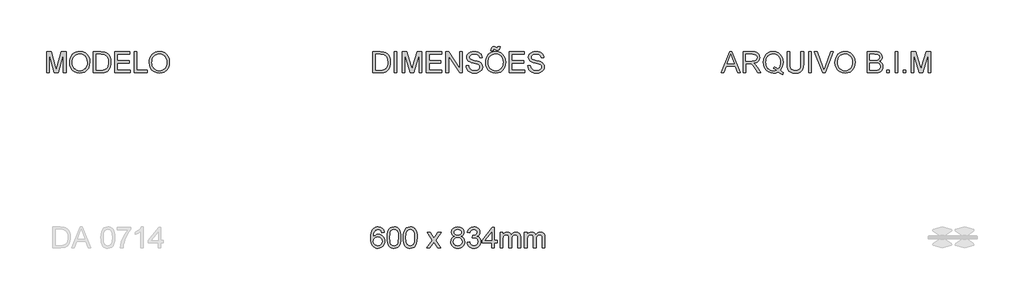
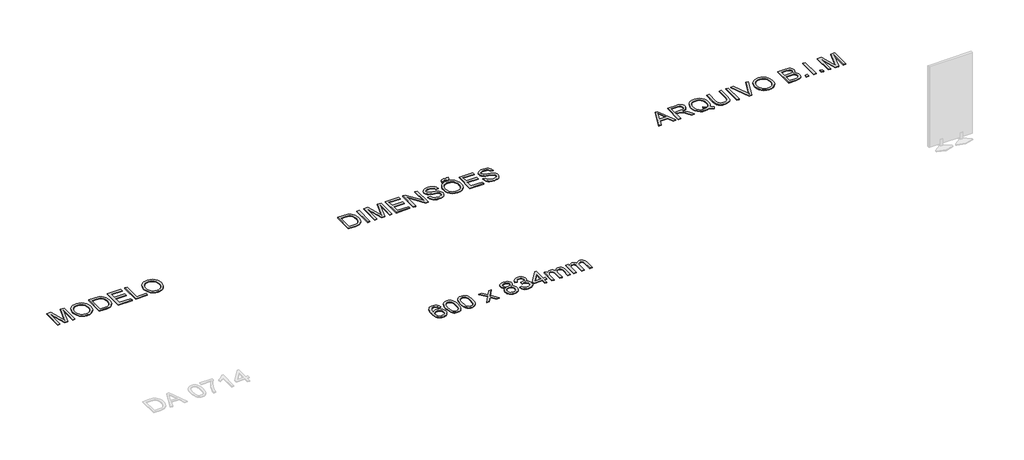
# One storey, part 66 of 67: 4 proxies.
"""IFC4 building model written with IfcOpenShell, lengths in millimetres."""

from ifc_helpers import new_model, si_unit, origin, origin_with_axes, place, context, project, spatial, polyline, outline, extrude, element, save

model = new_model("IFC4")

# Units and contexts
model_context = context("Model", 3, world=origin())
ifc_project = project(units=[si_unit("LENGTHUNIT", "METRE", prefix="MILLI")], contexts=[model_context])

# Site, building, storey
site = spatial("IfcSite", under=ifc_project)
building = spatial("IfcBuilding", under=site)
storey = spatial("IfcBuildingStorey", under=building, Name="Marelli - Linha COLAB - Planta Baixa", Elevation=0.0)

# Proxies
placement = place(None, origin())
element("IfcBuildingElementProxy", 1, Name="300mm Arial", ObjectType="300mm Arial", at=placement, inside=storey, context=model_context, shape_type="SweptSolid", body=[
    extrude(outline(polyline([(24684.665269, 8719.4336799), (24684.665269, 9020.8026104), (24788.6287208, 9020.8026104), (24842.4130685, 9016.4616028), (24866.4357628, 9008.0922874), (24886.7060607, 8994.9037179), (24907.5465757, 8971.9478814), (24922.3906142, 8943.4002386), (24931.2749644, 8909.8126124), (24934.2364145, 8871.7368259), (24932.2314576, 8839.3908015), (24926.216587, 8810.9259321), (24917.0563253, 8786.6917057), (24905.6151953, 8767.0376101), (24892.4450198, 8751.522187), (24878.097622, 8739.7039779), (24861.6257057, 8730.9391893), (24842.0819747, 8724.5840279), (24793.6319159, 8719.4336799), (24684.665269, 8719.4336799)]), holes=[polyline([(24722.3363853, 8757.1047962), (24788.9966028, 8757.1047962), (24816.5693583, 8758.4659596), (24837.4834498, 8762.5494498), (24853.2655873, 8769.1161434), (24865.4424814, 8777.9269172), (24878.5298834, 8794.2332866), (24888.3615297, 8815.3405161), (24894.5143561, 8841.3405761), (24896.5652982, 8872.3254371), (24892.5461874, 8913.3810678), (24880.488855, 8943.6945442), (24862.6741694, 8964.5166651), (24841.3829989, 8977.0982294), (24819.7147494, 8981.6231779), (24787.9665332, 8983.1314941), (24722.3363853, 8983.1314941), (24722.3363853, 8757.1047962)])]), origin_with_axes(), (0.0, 0.0, 1.0), 10.0),
    extrude(outline(polyline([(24990.7430889, 8719.4336799), (24990.7430889, 9020.8026104), (25028.4142052, 9020.8026104), (25028.4142052, 8719.4336799), (24990.7430889, 8719.4336799)])), origin_with_axes(), (0.0, 0.0, 1.0), 10.0),
    extrude(outline(polyline([(25103.7564379, 8719.4336799), (25103.7564379, 9020.8026104), (25168.5772454, 9020.8026104), (25230.2342678, 8808.3875464), (25242.6686792, 8764.0209777), (25256.1331603, 8812.0663663), (25316.7601131, 9020.8026104), (25381.5809206, 9020.8026104), (25381.5809206, 8719.4336799), (25343.9098043, 8719.4336799), (25343.9098043, 8983.1314941), (25268.1996897, 8719.4336799), (25217.1376688, 8719.4336799), (25141.4275542, 8983.1314941), (25141.4275542, 8719.4336799), (25103.7564379, 8719.4336799)])), origin_with_axes(), (0.0, 0.0, 1.0), 10.0),
    extrude(outline(polyline([(25447.5053742, 8719.4336799), (25447.5053742, 9020.8026104), (25664.1142929, 9020.8026104), (25664.1142929, 8983.1314941), (25485.1764905, 8983.1314941), (25485.1764905, 8893.6625928), (25654.6965138, 8893.6625928), (25654.6965138, 8855.9914765), (25485.1764905, 8855.9914765), (25485.1764905, 8757.1047962), (25668.8231825, 8757.1047962), (25668.8231825, 8719.4336799), (25447.5053742, 8719.4336799)])), origin_with_axes(), (0.0, 0.0, 1.0), 10.0),
    extrude(outline(polyline([(25725.3298569, 8719.4336799), (25725.3298569, 9020.8026104), (25765.6497236, 9020.8026104), (25923.1032175, 8782.0471955), (25923.1032175, 9020.8026104), (25960.7743338, 9020.8026104), (25960.7743338, 8719.4336799), (25920.4544672, 8719.4336799), (25763.0009732, 8958.2626712), (25763.0009732, 8719.4336799), (25725.3298569, 8719.4336799)])), origin_with_axes(), (0.0, 0.0, 1.0), 10.0),
    extrude(outline(polyline([(26012.5721187, 8823.0292498), (26050.2432351, 8823.0292498), (26054.5658485, 8802.1243554), (26062.3833409, 8785.3213453), (26074.578629, 8771.9856229), (26092.0346297, 8761.482592), (26113.3717854, 8754.667578), (26137.2105387, 8752.3959067), (26158.1982065, 8754.115755), (26176.5739122, 8759.2753), (26191.463936, 8767.4422803), (26201.9945581, 8778.1844346), (26208.257749, 8790.5176784), (26210.3454794, 8803.4579276), (26208.7819809, 8816.067083), (26204.0914854, 8826.9655871), (26194.5633418, 8836.2638046), (26178.4868986, 8844.0720999), (26123.6356931, 8858.4562859), (26087.6292428, 8867.9752325), (26064.5906329, 8877.0343267), (26045.8378482, 8889.7078614), (26032.5481111, 8905.0669347), (26024.6294511, 8922.7804528), (26021.9898978, 8942.5173218), (26025.2548505, 8964.5810445), (26035.0497087, 8985.154845), (26051.1169548, 9002.5924516), (26073.1990716, 9015.2475923), (26099.7049693, 9022.945523), (26129.0435584, 9025.5114999), (26160.8285628, 9022.8259614), (26188.6404416, 9014.7693457), (26211.4859135, 9001.5071997), (26228.3716971, 8983.2050705), (26239.0586691, 8961.0033921), (26243.3077061, 8936.0425987), (26205.6365898, 8936.0425987), (26198.7204083, 8958.5201886), (26184.2994341, 8974.7437846), (26161.7666619, 8984.5662339), (26130.5150864, 8987.8403836), (26098.5277469, 8984.6030221), (26076.5835859, 8974.8909374), (26063.8916571, 8960.5987219), (26059.6610141, 8943.6209678), (26062.6592524, 8929.1448113), (26071.6539672, 8917.5013461), (26092.9175465, 8907.0902857), (26133.1638368, 8896.458496), (26174.697714, 8886.3601352), (26199.8240543, 8877.5493615), (26221.2991658, 8863.8825453), (26236.28116, 8847.0151559), (26245.0827367, 8827.131134), (26248.0165957, 8804.4144208), (26244.6412784, 8781.1918699), (26234.5153264, 8759.3488764), (26218.0526072, 8740.5501065), (26195.6669877, 8726.460226), (26168.7472227, 8717.6586493), (26138.6820667, 8714.7247904), (26101.7743055, 8717.8885756), (26071.3964498, 8727.379931), (26047.1990115, 8743.235645), (26028.8325029, 8765.4925057), (26017.041885, 8792.6054088), (26012.5721187, 8823.0292498)])), origin_with_axes(), (0.0, 0.0, 1.0), 10.0),
    extrude(outline(polyline([(26290.3966015, 8866.1450196), (26292.9073961, 8901.4938808), (26300.43978, 8932.786843), (26312.9937531, 8960.0239063), (26330.5693154, 8983.2050705), (26352.1134047, 9001.7141334), (26376.5729589, 9014.9348926), (26403.9479778, 9022.8673481), (26434.2384616, 9025.5114999), (26473.767382, 9020.545093), (26509.2128122, 9005.6458722), (26538.6433718, 8981.8623012), (26560.1276804, 8950.2428437), (26573.2610676, 8912.31421), (26577.6388633, 8869.6031104), (26573.0311413, 8826.3217936), (26559.2079754, 8787.859731), (26536.9327206, 8756.1850912), (26506.9687321, 8733.266043), (26471.8268045, 8719.3601035), (26434.0177324, 8714.7247904), (26393.8818067, 8719.8475472), (26358.2340414, 8735.2158175), (26328.8770582, 8759.4408469), (26307.6134789, 8791.1338808), (26294.7008208, 8827.6001836), (26290.3966015, 8866.1450196)]), holes=[polyline([(26328.0677178, 8865.7771376), (26329.9508138, 8840.8025487), (26335.6001017, 8818.6330599), (26345.0155815, 8799.2686714), (26358.1972532, 8782.7093831), (26374.2208134, 8769.4472372), (26392.1619584, 8759.9742758), (26412.0206884, 8754.290499), (26433.7970032, 8752.3959067), (26455.9457986, 8754.3088931), (26476.0390533, 8760.0478522), (26494.0767674, 8769.6127841), (26510.0589408, 8783.0036887), (26523.1440435, 8799.9124649), (26532.4905455, 8820.0310115), (26538.0984466, 8843.3593285), (26539.967747, 8869.897416), (26536.7671737, 8903.2459188), (26527.1654536, 8932.0694731), (26511.4109072, 8955.641512), (26489.7518547, 8973.2354684), (26463.623036, 8984.1891548), (26434.4591908, 8987.8403836), (26413.4393333, 8986.0814478), (26393.936989, 8980.8046405), (26375.952158, 8972.0099615), (26359.4848402, 8959.697411), (26345.7398492, 8943.2737792), (26335.9219984, 8922.1458563), (26330.031288, 8896.3136425), (26328.0677178, 8865.7771376)])]), origin_with_axes(), (0.0, 0.0, 1.0), 10.0),
    extrude(outline(polyline([(26365.7388341, 9039.6381685), (26368.5899196, 9062.7963401), (26377.4374816, 9080.7673756), (26390.7732039, 9092.3004761), (26407.383076, 9096.144843), (26421.2890154, 9093.1098165), (26437.5493996, 9084.0047372), (26452.7797142, 9077.3092848), (26460.7627535, 9081.0984694), (26464.6255144, 9096.144843), (26497.5877412, 9096.144843), (26494.3043944, 9071.4231729), (26485.6315763, 9053.7648371), (26472.7281154, 9043.1698357), (26456.7528397, 9039.6381685), (26442.7549298, 9042.5076481), (26426.9543981, 9051.1160868), (26411.0618959, 9058.4737267), (26402.0855752, 9053.6912607), (26398.7010609, 9039.6381685), (26365.7388341, 9039.6381685)])), origin_with_axes(), (0.0, 0.0, 1.0), 10.0),
    extrude(outline(polyline([(26629.4366483, 8719.4336799), (26629.4366483, 9020.8026104), (26846.045567, 9020.8026104), (26846.045567, 8983.1314941), (26667.1077646, 8983.1314941), (26667.1077646, 8893.6625928), (26836.6277879, 8893.6625928), (26836.6277879, 8855.9914765), (26667.1077646, 8855.9914765), (26667.1077646, 8757.1047962), (26850.7544566, 8757.1047962), (26850.7544566, 8719.4336799), (26629.4366483, 8719.4336799)])), origin_with_axes(), (0.0, 0.0, 1.0), 10.0),
    extrude(outline(polyline([(26893.1344624, 8823.0292498), (26930.8055787, 8823.0292498), (26935.1281922, 8802.1243554), (26942.9456845, 8785.3213453), (26955.1409727, 8771.9856229), (26972.5969734, 8761.482592), (26993.9341291, 8754.667578), (27017.7728824, 8752.3959067), (27038.7605502, 8754.115755), (27057.1362559, 8759.2753), (27072.0262796, 8767.4422803), (27082.5569017, 8778.1844346), (27088.8200927, 8790.5176784), (27090.907823, 8803.4579276), (27089.3443245, 8816.067083), (27084.6538291, 8826.9655871), (27075.1256854, 8836.2638046), (27059.0492422, 8844.0720999), (27004.1980367, 8858.4562859), (26968.1915865, 8867.9752325), (26945.1529765, 8877.0343267), (26926.4001918, 8889.7078614), (26913.1104547, 8905.0669347), (26905.1917948, 8922.7804528), (26902.5522415, 8942.5173218), (26905.8171942, 8964.5810445), (26915.6120523, 8985.154845), (26931.6792984, 9002.5924516), (26953.7614152, 9015.2475923), (26980.267313, 9022.945523), (27009.6059021, 9025.5114999), (27041.3909065, 9022.8259614), (27069.2027853, 9014.7693457), (27092.0482572, 9001.5071997), (27108.9340408, 8983.2050705), (27119.6210127, 8961.0033921), (27123.8700498, 8936.0425987), (27086.1989335, 8936.0425987), (27079.282752, 8958.5201886), (27064.8617777, 8974.7437846), (27042.3290055, 8984.5662339), (27011.0774301, 8987.8403836), (26979.0900906, 8984.6030221), (26957.1459296, 8974.8909374), (26944.4540007, 8960.5987219), (26940.2233578, 8943.6209678), (26943.221596, 8929.1448113), (26952.2163108, 8917.5013461), (26973.4798901, 8907.0902857), (27013.7261804, 8896.458496), (27055.2600577, 8886.3601352), (27080.3863979, 8877.5493615), (27101.8615094, 8863.8825453), (27116.8435037, 8847.0151559), (27125.6450804, 8827.131134), (27128.5789393, 8804.4144208), (27125.203622, 8781.1918699), (27115.0776701, 8759.3488764), (27098.6149508, 8740.5501065), (27076.2293314, 8726.460226), (27049.3095664, 8717.6586493), (27019.2444103, 8714.7247904), (26982.3366492, 8717.8885756), (26951.9587934, 8727.379931), (26927.7613552, 8743.235645), (26909.3948466, 8765.4925057), (26897.6042286, 8792.6054088), (26893.1344624, 8823.0292498)])), origin_with_axes(), (0.0, 0.0, 1.0), 10.0),
])
element("IfcBuildingElementProxy", 2, Name="300mm Arial", ObjectType="300mm Arial", at=placement, inside=storey, context=model_context, shape_type="SweptSolid", body=[
    extrude(outline(polyline([(29649.579499, 8719.4336799), (29769.8769114, 9020.8026104), (29801.9562214, 9020.8026104), (29922.2536338, 8719.4336799), (29882.448802, 8719.4336799), (29847.9414708, 8813.6114707), (29723.8180857, 8813.6114707), (29689.3843309, 8719.4336799), (29649.579499, 8719.4336799)]), holes=[polyline([(29737.6504487, 8851.282587), (29834.1826842, 8851.282587), (29807.032993, 8925.3740208), (29785.9165664, 8983.1314941), (29767.1545847, 8931.8487439), (29737.6504487, 8851.282587)])]), origin_with_axes(), (0.0, 0.0, 1.0), 10.0),
    extrude(outline(polyline([(29962.4999241, 8719.4336799), (29962.4999241, 9020.8026104), (30092.3622684, 9020.8026104), (30127.2650727, 9018.7700624), (30152.6581274, 9012.6724183), (30171.2177741, 9001.4152292), (30185.6203542, 8983.9040463), (30194.8633893, 8962.1898115), (30197.944401, 8938.3234671), (30192.8400384, 8908.6353901), (30177.5269503, 8884.0240846), (30165.9271711, 8873.9947017), (30151.5452844, 8865.9794727), (30114.4351881, 8855.9914765), (30135.8459202, 8839.8782452), (30166.3801258, 8801.1034829), (30216.6328064, 8719.4336799), (30172.854849, 8719.4336799), (30133.6386283, 8781.9000427), (30105.3117146, 8823.249979), (30085.4092987, 8842.7845129), (30067.4934455, 8849.9582118), (30045.641255, 8851.282587), (30000.1710404, 8851.282587), (30000.1710404, 8719.4336799), (29962.4999241, 8719.4336799)]), holes=[polyline([(30000.1710404, 8888.9537033), (30084.4895937, 8888.9537033), (30108.7054261, 8890.2872755), (30127.494999, 8894.2879922), (30141.6400617, 8901.2225678), (30151.9223634, 8911.3577168), (30158.1855544, 8923.6173843), (30160.2732847, 8936.9255155), (30156.2909621, 8955.3012211), (30144.3439943, 8970.1084714), (30123.7885879, 8979.8757384), (30093.9809492, 8983.1314941), (30000.1710404, 8983.1314941), (30000.1710404, 8888.9537033)])]), origin_with_axes(), (0.0, 0.0, 1.0), 10.0),
    extrude(outline(polyline([(30490.2634344, 8755.5596919), (30514.5988284, 8736.963257), (30536.9844478, 8724.1425695), (30526.8309047, 8696.5514198), (30495.7632702, 8710.9539999), (30464.8060003, 8731.794515), (30429.9491813, 8718.9922215), (30391.5974833, 8714.7247904), (30353.0618443, 8719.6452121), (30318.2418135, 8734.4064771), (30289.0779683, 8758.0796835), (30267.5108863, 8789.7359292), (30254.184361, 8827.6369718), (30249.742186, 8870.0445688), (30254.175164, 8912.488954), (30267.4740981, 8950.9418195), (30288.9584066, 8983.0487206), (30317.9475079, 9006.4552126), (30352.63878, 9020.7474281), (30391.2296013, 9025.5114999), (30430.1239252, 9020.6370635), (30464.9899413, 9006.0137542), (30493.9330573, 8982.6164593), (30515.0586809, 8951.4200661), (30527.9713389, 8914.0800436), (30532.2755583, 8872.2518607), (30529.6635961, 8837.4686181), (30521.8277096, 8806.4009836), (30508.7127165, 8779.0857454), (30490.2634344, 8755.5596919)]), holes=[polyline([(30401.9717556, 8805.6652196), (30433.6463953, 8793.6906607), (30459.214194, 8777.0440004), (30474.6974275, 8794.5183951), (30485.75688, 8815.8923391), (30492.3925514, 8841.1658321), (30494.6044419, 8870.3388744), (30491.477445, 8903.4942392), (30482.0964541, 8932.1798377), (30466.6913956, 8955.6691031), (30445.4921956, 8973.2354684), (30419.933594, 8984.1891548), (30391.4503305, 8987.8403836), (30369.966022, 8985.9940758), (30350.3946998, 8980.4551526), (30332.7363641, 8971.2236137), (30316.9910147, 8958.2994594), (30304.0507655, 8941.7102807), (30294.8077304, 8921.4836687), (30289.2619093, 8897.6196236), (30287.4133023, 8870.1181452), (30289.2412159, 8843.3340366), (30294.7249569, 8819.8562676), (30303.8645252, 8799.6848379), (30316.6599209, 8782.8197477), (30332.2972049, 8769.5093173), (30349.9624385, 8760.0018669), (30369.6556215, 8754.2973968), (30391.3767541, 8752.3959067), (30412.2908455, 8754.3272872), (30431.91735, 8760.1214286), (30412.6219393, 8770.146213), (30392.2596709, 8776.8232712), (30401.9717556, 8805.6652196)])]), origin_with_axes(), (0.0, 0.0, 1.0), 10.0),
    extrude(outline(polyline([(30786.5555933, 9020.8026104), (30824.2267096, 9020.8026104), (30824.2267096, 8846.9415795), (30821.6699298, 8806.2262396), (30813.9995902, 8774.8734966), (30799.6705864, 8750.6852554), (30777.1378142, 8731.4634212), (30746.3460912, 8718.9094481), (30707.2402352, 8714.7247904), (30668.9897047, 8718.3668221), (30638.4095139, 8729.2929174), (30615.4904656, 8747.1259971), (30600.2233628, 8771.4889822), (30591.6425152, 8804.1661005), (30588.7822327, 8846.9415795), (30588.7822327, 9020.8026104), (30626.453349, 9020.8026104), (30626.453349, 8848.2659546), (30628.3111531, 8814.411614), (30633.8845653, 8790.8395752), (30643.9829261, 8774.5148117), (30659.4155758, 8762.402297), (30679.5387209, 8754.8975043), (30703.708568, 8752.3959067), (30742.0234778, 8757.3439195), (30756.3662771, 8763.5289356), (30767.499306, 8772.187958), (30775.8364317, 8784.3648521), (30781.7915215, 8801.1034829), (30786.5555933, 8848.2659546), (30786.5555933, 9020.8026104)])), origin_with_axes(), (0.0, 0.0, 1.0), 10.0),
    extrude(outline(polyline([(30894.8600527, 8719.4336799), (30894.8600527, 9020.8026104), (30932.531169, 9020.8026104), (30932.531169, 8719.4336799), (30894.8600527, 8719.4336799)])), origin_with_axes(), (0.0, 0.0, 1.0), 10.0),
    extrude(outline(polyline([(31096.9008444, 8719.4336799), (30976.971314, 9020.8026104), (31017.2911807, 9020.8026104), (31097.563032, 8803.6786568), (31113.8234162, 8754.7503515), (31129.8630712, 8803.6786568), (31210.3556518, 9020.8026104), (31250.6755184, 9020.8026104), (31135.8227595, 8719.4336799), (31096.9008444, 8719.4336799)])), origin_with_axes(), (0.0, 0.0, 1.0), 10.0),
    extrude(outline(polyline([(31271.5712158, 8866.1450196), (31274.0820104, 8901.4938808), (31281.6143942, 8932.786843), (31294.1683673, 8960.0239063), (31311.7439296, 8983.2050705), (31333.288019, 9001.7141334), (31357.7475731, 9014.9348926), (31385.1225921, 9022.8673481), (31415.4130759, 9025.5114999), (31454.9419963, 9020.545093), (31490.3874265, 9005.6458722), (31519.8179861, 8981.8623012), (31541.3022946, 8950.2428437), (31554.4356819, 8912.31421), (31558.8134776, 8869.6031104), (31554.2057556, 8826.3217936), (31540.3825896, 8787.859731), (31518.1073348, 8756.1850912), (31488.1433463, 8733.266043), (31453.0014187, 8719.3601035), (31415.1923467, 8714.7247904), (31375.056421, 8719.8475472), (31339.4086557, 8735.2158175), (31310.0516725, 8759.4408469), (31288.7880931, 8791.1338808), (31275.8754351, 8827.6001836), (31271.5712158, 8866.1450196)]), holes=[polyline([(31309.2423321, 8865.7771376), (31311.125428, 8840.8025487), (31316.7747159, 8818.6330599), (31326.1901957, 8799.2686714), (31339.3718675, 8782.7093831), (31355.3954276, 8769.4472372), (31373.3365727, 8759.9742758), (31393.1953026, 8754.290499), (31414.9716175, 8752.3959067), (31437.1204129, 8754.3088931), (31457.2136676, 8760.0478522), (31475.2513817, 8769.6127841), (31491.2335551, 8783.0036887), (31504.3186578, 8799.9124649), (31513.6651597, 8820.0310115), (31519.2730609, 8843.3593285), (31521.1423613, 8869.897416), (31517.9417879, 8903.2459188), (31508.3400679, 8932.0694731), (31492.5855214, 8955.641512), (31470.9264689, 8973.2354684), (31444.7976502, 8984.1891548), (31415.6338051, 8987.8403836), (31394.6139476, 8986.0814478), (31375.1116033, 8980.8046405), (31357.1267723, 8972.0099615), (31340.6594545, 8959.697411), (31326.9144634, 8943.2737792), (31317.0966127, 8922.1458563), (31311.2059022, 8896.3136425), (31309.2423321, 8865.7771376)])]), origin_with_axes(), (0.0, 0.0, 1.0), 10.0),
    extrude(outline(polyline([(31728.333501, 8719.4336799), (31728.333501, 9020.8026104), (31843.3334127, 9020.8026104), (31874.9620672, 9018.5861214), (31899.6561461, 9011.9366543), (31918.5836748, 9000.6886623), (31932.9126785, 8984.6765985), (31941.9349844, 8965.8410403), (31944.9424197, 8946.1225654), (31942.413231, 8927.9767859), (31934.8256649, 8910.9162584), (31922.124539, 8895.9894465), (31904.2546711, 8884.2448138), (31925.6010238, 8873.0979893), (31941.3739644, 8856.1386293), (31951.1136402, 8834.4887739), (31954.3601988, 8809.2704632), (31952.1437098, 8788.2552042), (31945.4942427, 8768.7666555), (31935.5706259, 8752.1935716), (31923.5316876, 8739.9247071), (31908.7888167, 8731.0403569), (31890.7534018, 8724.6208161), (31842.4504959, 8719.4336799), (31728.333501, 8719.4336799)]), holes=[polyline([(31766.0046173, 8898.3714824), (31834.7985504, 8898.3714824), (31874.9712642, 8901.6088439), (31889.0335535, 8907.1914532), (31899.1411113, 8915.5515716), (31905.2387554, 8926.5604403), (31907.2713034, 8940.0893006), (31905.3767111, 8953.2226879), (31899.6929343, 8964.6638179), (31890.4774903, 8973.5941533), (31877.9878966, 8979.1951567), (31829.574626, 8983.1314941), (31766.0046173, 8983.1314941), (31766.0046173, 8898.3714824)]), polyline([(31766.0046173, 8757.1047962), (31843.2598363, 8757.1047962), (31871.2188679, 8758.5763242), (31894.8736802, 8766.7800927), (31910.5454532, 8783.5187235), (31915.1531752, 8795.3461296), (31916.6890825, 8808.9025812), (31914.8864607, 8824.6479306), (31909.4785954, 8838.185988), (31900.0332252, 8848.7717924), (31886.1180887, 8855.6603827), (31866.4088108, 8859.4403702), (31839.5810163, 8860.7003661), (31766.0046173, 8860.7003661), (31766.0046173, 8757.1047962)])]), origin_with_axes(), (0.0, 0.0, 1.0), 10.0),
    extrude(outline(polyline([(32010.8668733, 8719.4336799), (32010.8668733, 8757.1047962), (32048.5379896, 8757.1047962), (32048.5379896, 8719.4336799), (32010.8668733, 8719.4336799)])), origin_with_axes(), (0.0, 0.0, 1.0), 10.0),
    extrude(outline(polyline([(32128.5891117, 8719.4336799), (32128.5891117, 9020.8026104), (32166.260228, 9020.8026104), (32166.260228, 8719.4336799), (32128.5891117, 8719.4336799)])), origin_with_axes(), (0.0, 0.0, 1.0), 10.0),
    extrude(outline(polyline([(32246.3113502, 8719.4336799), (32246.3113502, 8757.1047962), (32283.9824665, 8757.1047962), (32283.9824665, 8719.4336799), (32246.3113502, 8719.4336799)])), origin_with_axes(), (0.0, 0.0, 1.0), 10.0),
    extrude(outline(polyline([(32359.3246991, 8719.4336799), (32359.3246991, 9020.8026104), (32424.1455066, 9020.8026104), (32485.802529, 8808.3875464), (32498.2369405, 8764.0209777), (32511.7014215, 8812.0663663), (32572.3283743, 9020.8026104), (32637.1491819, 9020.8026104), (32637.1491819, 8719.4336799), (32599.4780655, 8719.4336799), (32599.4780655, 8983.1314941), (32523.7679509, 8719.4336799), (32472.70593, 8719.4336799), (32396.9958154, 8983.1314941), (32396.9958154, 8719.4336799), (32359.3246991, 8719.4336799)])), origin_with_axes(), (0.0, 0.0, 1.0), 10.0),
])
element("IfcBuildingElementProxy", 3, Name="300mm Arial", ObjectType="300mm Arial", at=placement, inside=storey, context=model_context, shape_type="SweptSolid", body=[
    extrude(outline(polyline([(24849.4764028, 6440.7514882), (24811.8052865, 6436.0425987), (24805.7352336, 6454.7126099), (24797.5314651, 6467.4597211), (24780.4433464, 6479.2135508), (24759.7867724, 6483.1314941), (24742.2755894, 6480.8506257), (24725.794476, 6474.0080206), (24711.6402163, 6459.5962434), (24700.0795246, 6439.7582068), (24692.2712292, 6411.6980077), (24689.3741585, 6372.6197427), (24704.4849114, 6390.2504873), (24722.5939027, 6402.6757017), (24742.6894566, 6410.0425387), (24763.7598979, 6412.498151), (24781.8596921, 6410.8196894), (24798.5615347, 6405.7843046), (24813.8654257, 6397.3919966), (24827.7713651, 6385.6427654), (24839.3274583, 6371.2355867), (24847.5818105, 6354.8694365), (24852.5344219, 6336.5443146), (24854.1852923, 6316.2602211), (24851.0766895, 6289.2852738), (24841.7508809, 6264.2784951), (24826.9804188, 6243.0700981), (24807.5378553, 6227.4902956), (24784.3061073, 6217.9161667), (24758.1680916, 6214.7247904), (24735.711195, 6216.8401119), (24715.4294008, 6223.1860763), (24697.3227089, 6233.7626836), (24681.3911192, 6248.5699339), (24668.4025855, 6268.2332266), (24659.1250614, 6293.377961), (24653.558547, 6324.0041371), (24651.7030422, 6360.1117549), (24653.7631814, 6400.5925699), (24659.9435989, 6435.1412878), (24670.2442947, 6463.7579085), (24684.665269, 6486.442432), (24700.2956552, 6501.4750101), (24718.418442, 6512.2125658), (24739.0336293, 6518.6550992), (24762.1412171, 6520.8026104), (24795.1954144, 6515.4867156), (24821.664524, 6499.5390311), (24840.2057765, 6474.2103557), (24849.4764028, 6440.7514882)]), holes=[polyline([(24689.3741585, 6316.8488323), (24691.5538593, 6300.1561867), (24698.0929618, 6284.2176993), (24708.2465048, 6270.514095), (24721.2695275, 6260.5260988), (24736.9872857, 6254.4284547), (24755.2250356, 6252.3959067), (24780.0846615, 6256.6081555), (24799.6283924, 6269.2449021), (24812.2927301, 6289.1105298), (24816.514176, 6315.0094223), (24812.3479124, 6339.8690481), (24799.8491216, 6358.8241679), (24779.9742969, 6370.826318), (24753.6799313, 6374.8270347), (24728.8570936, 6370.826318), (24708.099352, 6358.8241679), (24694.0554569, 6340.3289006), (24689.3741585, 6316.8488323)])]), origin_with_axes(), (0.0, 0.0, 1.0), 10.0),
    extrude(outline(polyline([(24887.1475191, 6367.690124), (24889.9158311, 6415.9286506), (24898.2207672, 6454.3999103), (24911.9795538, 6483.6925141), (24931.1094175, 6504.3950734), (24955.7483142, 6516.7007261), (24986.0341994, 6520.8026104), (25009.2475533, 6518.3745892), (25030.032886, 6511.0905257), (25047.4153103, 6499.2355284), (25060.4199388, 6483.0947059), (25070.2423881, 6462.8060138), (25078.0782746, 6438.5074081), (25083.2102284, 6407.6513057), (25084.9208797, 6367.690124), (25082.1801588, 6319.7275089), (25073.9579963, 6281.3482197), (25060.2819831, 6252.0280247), (25041.1797105, 6231.242692), (25016.4856316, 6218.8542658), (24986.0341994, 6214.7247904), (24965.2856549, 6216.5182151), (24946.8915551, 6221.8984893), (24930.8519001, 6230.8656129), (24917.1666899, 6243.419586), (24904.0333027, 6266.1133066), (24894.6523118, 6294.3896364), (24889.0237173, 6328.2485756), (24887.1475191, 6367.690124)]), holes=[polyline([(24924.8186354, 6367.7637004), (24929.2332193, 6308.507108), (24934.7514493, 6288.2391093), (24942.4769712, 6274.211309), (24962.1954461, 6257.8497573), (24986.0341994, 6252.3959067), (25009.8729527, 6257.8681514), (25029.5914276, 6274.2848854), (25037.3169495, 6288.3356784), (25042.8351795, 6308.5990785), (25047.2497634, 6367.7637004), (25042.9823323, 6425.6867205), (25037.6480433, 6445.8880406), (25030.1800388, 6460.249234), (25010.4983521, 6477.410929), (24985.592741, 6483.1314941), (24962.0115051, 6478.0915107), (24943.0655824, 6462.9715607), (24935.0825431, 6447.3365759), (24929.3803721, 6426.2569376), (24924.8186354, 6367.7637004)])]), origin_with_axes(), (0.0, 0.0, 1.0), 10.0),
    extrude(outline(polyline([(25117.8831065, 6367.690124), (25120.6514185, 6415.9286506), (25128.9563545, 6454.3999103), (25142.7151412, 6483.6925141), (25161.8450049, 6504.3950734), (25186.4839015, 6516.7007261), (25216.7697868, 6520.8026104), (25239.9831407, 6518.3745892), (25260.7684734, 6511.0905257), (25278.1508977, 6499.2355284), (25291.1555262, 6483.0947059), (25300.9779755, 6462.8060138), (25308.813862, 6438.5074081), (25313.9458158, 6407.6513057), (25315.6564671, 6367.690124), (25312.9157462, 6319.7275089), (25304.6935836, 6281.3482197), (25291.0175705, 6252.0280247), (25271.9152979, 6231.242692), (25247.2212189, 6218.8542658), (25216.7697868, 6214.7247904), (25196.0212423, 6216.5182151), (25177.6271425, 6221.8984893), (25161.5874875, 6230.8656129), (25147.9022773, 6243.419586), (25134.7688901, 6266.1133066), (25125.3878992, 6294.3896364), (25119.7593047, 6328.2485756), (25117.8831065, 6367.690124)]), holes=[polyline([(25155.5542228, 6367.7637004), (25159.9688067, 6308.507108), (25165.4870367, 6288.2391093), (25173.2125586, 6274.211309), (25192.9310335, 6257.8497573), (25216.7697868, 6252.3959067), (25240.6085401, 6257.8681514), (25260.327015, 6274.2848854), (25268.0525369, 6288.3356784), (25273.5707668, 6308.5990785), (25277.9853508, 6367.7637004), (25273.7179196, 6425.6867205), (25268.3836307, 6445.8880406), (25260.9156262, 6460.249234), (25241.2339395, 6477.410929), (25216.3283284, 6483.1314941), (25192.7470925, 6478.0915107), (25173.8011697, 6462.9715607), (25165.8181304, 6447.3365759), (25160.1159595, 6426.2569376), (25155.5542228, 6367.7637004)])]), origin_with_axes(), (0.0, 0.0, 1.0), 10.0),
    extrude(outline(polyline([(25452.2142637, 6219.4336799), (25532.7068442, 6330.6811953), (25456.9231532, 6440.7514882), (25502.246215, 6440.7514882), (25538.8136854, 6387.7764809), (25555.8834099, 6362.7605053), (25570.6722661, 6383.2147442), (25612.316508, 6440.7514882), (25657.6395698, 6440.7514882), (25578.029906, 6330.6811953), (25654.6965138, 6219.4336799), (25609.373452, 6219.4336799), (25563.2410498, 6286.3146267), (25554.7797639, 6298.5283089), (25497.5373255, 6219.4336799), (25452.2142637, 6219.4336799)])), origin_with_axes(), (0.0, 0.0, 1.0), 10.0),
    extrude(outline(polyline([(25850.8511937, 6385.4220362), (25830.6820633, 6395.35485), (25816.5278035, 6408.819331), (25808.1676852, 6425.5395677), (25805.3809791, 6445.2396486), (25806.8984923, 6460.6033204), (25811.451032, 6474.6886023), (25819.0385981, 6487.4954942), (25829.6611907, 6499.0239963), (25842.8083735, 6508.5521399), (25857.9697103, 6515.3579569), (25894.3348455, 6520.8026104), (25930.9207099, 6515.2291982), (25946.2475935, 6508.2624329), (25959.5971114, 6498.5089615), (25970.4128421, 6486.7551317), (25978.138364, 6473.7872914), (25982.7736771, 6459.6054405), (25984.3187815, 6444.209579), (25981.5688636, 6425.1440946), (25973.3191099, 6408.7089665), (25959.4775498, 6395.3272589), (25939.9522129, 6385.4220362), (25963.1379756, 6373.4750684), (25980.0145622, 6355.8811119), (25990.306061, 6333.4862955), (25993.7365606, 6307.1367476), (25992.0351064, 6288.3471747), (25986.9307437, 6271.1211003), (25978.4234725, 6255.4585243), (25966.5132929, 6241.3594468), (25951.8256043, 6229.7067846), (25934.985806, 6221.3834545), (25915.993898, 6216.3894564), (25894.8498803, 6214.7247904), (25873.7058626, 6216.3963542), (25854.7139546, 6221.4110457), (25837.8741563, 6229.7688647), (25823.1864676, 6241.4698114), (25811.276288, 6255.6677572), (25802.7690169, 6271.5165734), (25797.6646542, 6289.0162601), (25795.9632, 6308.1668172), (25799.5316553, 6335.5372376), (25810.2370214, 6358.0516157), (25827.5274752, 6374.9373993), (25850.8511937, 6385.4220362)]), holes=[polyline([(25843.0520954, 6444.1360026), (25846.3906245, 6427.6916774), (25856.4062118, 6414.5582902), (25872.8045517, 6405.9498515), (25895.2913387, 6403.0803719), (25917.2538938, 6405.9314574), (25933.4039134, 6414.4847138), (25943.3367273, 6427.1766426), (25946.6476652, 6442.4437454), (25943.2263627, 6458.2902624), (25932.962455, 6471.3960584), (25916.5917062, 6480.1976352), (25894.8498803, 6483.1314941), (25872.9700986, 6480.2620145), (25856.626941, 6471.6535758), (25846.4458068, 6459.0352234), (25843.0520954, 6444.1360026)]), polyline([(25833.6343163, 6309.4911924), (25839.9250984, 6281.1274905), (25848.6347046, 6268.9597935), (25862.1819591, 6259.9006994), (25878.4055551, 6254.2721049), (25895.1441859, 6252.3959067), (25920.7855609, 6256.3414411), (25940.0257893, 6268.1780443), (25952.0555305, 6286.1030945), (25956.0654443, 6308.31397), (25951.9267718, 6330.9019245), (25939.5107545, 6349.2224478), (25919.8290678, 6361.3625537), (25893.8933871, 6365.4092556), (25868.610697, 6361.417736), (25849.5636067, 6349.443177), (25837.6166389, 6331.4721416), (25833.6343163, 6309.4911924)])]), origin_with_axes(), (0.0, 0.0, 1.0), 10.0),
    extrude(outline(polyline([(26026.6987874, 6299.4848021), (26064.3699037, 6304.1936916), (26072.8035984, 6280.5204852), (26085.1552364, 6264.5360125), (26102.0318229, 6255.4309332), (26124.0403633, 6252.3959067), (26149.8656793, 6256.5713673), (26169.8048835, 6269.0977493), (26182.5519946, 6287.7861546), (26186.8010317, 6310.4476855), (26182.5887828, 6331.9595852), (26169.9520363, 6349.4063888), (26150.8221725, 6360.9670805), (26127.130572, 6364.8206444), (26100.7166448, 6360.7003661), (26104.9104995, 6398.3714824), (26110.9437643, 6397.930024), (26133.5133247, 6400.6339567), (26153.6916521, 6408.7457546), (26167.9286853, 6422.4677531), (26172.674363, 6442.002287), (26169.2346664, 6458.2718683), (26158.9155764, 6471.4696348), (26143.170227, 6480.2160293), (26123.4517521, 6483.1314941), (26103.696489, 6480.1884381), (26087.5464694, 6471.3592702), (26075.7558514, 6456.6439904), (26069.0787932, 6436.0425987), (26031.4076769, 6440.7514882), (26042.4993191, 6474.5782377), (26062.2361881, 6499.8333367), (26089.2387265, 6515.5602919), (26122.1273769, 6520.8026104), (26145.8097803, 6518.2182394), (26167.5608033, 6510.4651263), (26185.8997208, 6498.23305), (26199.3458077, 6482.2117891), (26207.5955614, 6463.75331), (26210.3454794, 6444.209579), (26207.7335172, 6425.9994202), (26199.8976307, 6409.4815186), (26186.9481845, 6395.4100323), (26168.9955431, 6384.5391194), (26192.576779, 6375.0109757), (26210.0511738, 6358.7873797), (26220.8669044, 6336.7512482), (26224.472148, 6309.7854979), (26222.6695262, 6290.6740283), (26217.2616609, 6273.0708748), (26208.248552, 6256.9760375), (26195.6301995, 6242.3895164), (26180.2573307, 6230.2861988), (26162.9806725, 6221.6409719), (26143.800225, 6216.4538358), (26122.7159881, 6214.7247904), (26103.6597008, 6216.2009169), (26086.2956706, 6220.6292964), (26070.6238976, 6228.0099289), (26056.6443818, 6238.3428145), (26044.9227417, 6251.0209477), (26036.0245959, 6265.4373234), (26029.9499445, 6281.5919415), (26026.6987874, 6299.4848021)])), origin_with_axes(), (0.0, 0.0, 1.0), 10.0),
    extrude(outline(polyline([(26379.8655027, 6219.4336799), (26379.8655027, 6290.067023), (26243.3077061, 6290.067023), (26243.3077061, 6327.7381393), (26389.2832818, 6516.0937208), (26417.536619, 6516.0937208), (26417.536619, 6327.7381393), (26455.2077353, 6327.7381393), (26455.2077353, 6290.067023), (26417.536619, 6290.067023), (26417.536619, 6219.4336799), (26379.8655027, 6219.4336799)]), holes=[polyline([(26379.8655027, 6327.7381393), (26379.8655027, 6444.1360026), (26289.6608375, 6327.7381393), (26379.8655027, 6327.7381393)])]), origin_with_axes(), (0.0, 0.0, 1.0), 10.0),
    extrude(outline(polyline([(26497.5877412, 6219.4336799), (26497.5877412, 6440.7514882), (26535.2588575, 6440.7514882), (26535.2588575, 6404.3311707), (26546.5896229, 6421.0606044), (26561.15775, 6434.1664005), (26578.4665978, 6442.6368835), (26598.0195259, 6445.4603778), (26618.9704055, 6442.5817012), (26635.7642186, 6433.9456713), (26648.3089946, 6420.1225054), (26656.5127631, 6401.6824203), (26670.2439586, 6420.8352767), (26685.9065345, 6434.5158884), (26703.5004909, 6442.7242554), (26723.0258278, 6445.4603778), (26751.3435444, 6440.9078381), (26772.285227, 6427.250219), (26785.2254762, 6404.1196386), (26789.5388926, 6371.1482147), (26789.5388926, 6219.4336799), (26751.8677763, 6219.4336799), (26751.8677763, 6354.961407), (26748.3728973, 6386.4153175), (26743.4616727, 6395.0881356), (26735.7177567, 6401.9031495), (26725.7573516, 6406.3177335), (26714.1966599, 6407.7892615), (26693.7884063, 6404.018471), (26677.150943, 6392.7060997), (26666.086892, 6373.0795952), (26662.398875, 6344.3664055), (26662.398875, 6219.4336799), (26624.7277587, 6219.4336799), (26624.7277587, 6359.1552617), (26622.5480579, 6380.4556292), (26616.0089554, 6395.6491556), (26604.503446, 6404.754235), (26587.4245244, 6407.7892615), (26572.9115797, 6405.7659105), (26559.5390692, 6399.6958576), (26548.5026093, 6389.7262555), (26540.9978166, 6376.0042571), (26536.6935973, 6356.9663638), (26535.2588575, 6331.0490773), (26535.2588575, 6219.4336799), (26497.5877412, 6219.4336799)])), origin_with_axes(), (0.0, 0.0, 1.0), 10.0),
    extrude(outline(polyline([(26846.045567, 6219.4336799), (26846.045567, 6440.7514882), (26883.7166833, 6440.7514882), (26883.7166833, 6404.3311707), (26895.0474488, 6421.0606044), (26909.6155758, 6434.1664005), (26926.9244237, 6442.6368835), (26946.4773517, 6445.4603778), (26967.4282313, 6442.5817012), (26984.2220444, 6433.9456713), (26996.7668204, 6420.1225054), (27004.9705889, 6401.6824203), (27018.7017844, 6420.8352767), (27034.3643603, 6434.5158884), (27051.9583168, 6442.7242554), (27071.4836537, 6445.4603778), (27099.8013702, 6440.9078381), (27120.7430528, 6427.250219), (27133.683302, 6404.1196386), (27137.9967184, 6371.1482147), (27137.9967184, 6219.4336799), (27100.3256021, 6219.4336799), (27100.3256021, 6354.961407), (27096.8307231, 6386.4153175), (27091.9194985, 6395.0881356), (27084.1755825, 6401.9031495), (27074.2151775, 6406.3177335), (27062.6544858, 6407.7892615), (27042.2462321, 6404.018471), (27025.6087689, 6392.7060997), (27014.5447179, 6373.0795952), (27010.8567009, 6344.3664055), (27010.8567009, 6219.4336799), (26973.1855846, 6219.4336799), (26973.1855846, 6359.1552617), (26971.0058837, 6380.4556292), (26964.4667813, 6395.6491556), (26952.9612719, 6404.754235), (26935.8823502, 6407.7892615), (26921.3694055, 6405.7659105), (26907.996895, 6399.6958576), (26896.9604352, 6389.7262555), (26889.4556424, 6376.0042571), (26885.1514231, 6356.9663638), (26883.7166833, 6331.0490773), (26883.7166833, 6219.4336799), (26846.045567, 6219.4336799)])), origin_with_axes(), (0.0, 0.0, 1.0), 10.0),
])
element("IfcBuildingElementProxy", 4, Name="300mm Arial", ObjectType="300mm Arial", at=placement, inside=storey, context=model_context, shape_type="SweptSolid", body=[
    extrude(outline(polyline([(20033.1230948, 8719.4336799), (20033.1230948, 9020.8026104), (20097.9439023, 9020.8026104), (20159.6009247, 8808.3875464), (20172.0353362, 8764.0209777), (20185.4998172, 8812.0663663), (20246.12677, 9020.8026104), (20310.9475775, 9020.8026104), (20310.9475775, 8719.4336799), (20273.2764612, 8719.4336799), (20273.2764612, 8983.1314941), (20197.5663466, 8719.4336799), (20146.5043257, 8719.4336799), (20070.7942111, 8983.1314941), (20070.7942111, 8719.4336799), (20033.1230948, 8719.4336799)])), origin_with_axes(), (0.0, 0.0, 1.0), 10.0),
    extrude(outline(polyline([(20362.7453625, 8866.1450196), (20365.2561571, 8901.4938808), (20372.7885409, 8932.786843), (20385.342514, 8960.0239063), (20402.9180763, 8983.2050705), (20424.4621657, 9001.7141334), (20448.9217198, 9014.9348926), (20476.2967388, 9022.8673481), (20506.5872226, 9025.5114999), (20546.116143, 9020.545093), (20581.5615732, 9005.6458722), (20610.9921328, 8981.8623012), (20632.4764413, 8950.2428437), (20645.6098286, 8912.31421), (20649.9876243, 8869.6031104), (20645.3799023, 8826.3217936), (20631.5567363, 8787.859731), (20609.2814815, 8756.1850912), (20579.317493, 8733.266043), (20544.1755654, 8719.3601035), (20506.3664934, 8714.7247904), (20466.2305677, 8719.8475472), (20430.5828024, 8735.2158175), (20401.2258192, 8759.4408469), (20379.9622398, 8791.1338808), (20367.0495818, 8827.6001836), (20362.7453625, 8866.1450196)]), holes=[polyline([(20400.4164788, 8865.7771376), (20402.2995747, 8840.8025487), (20407.9488626, 8818.6330599), (20417.3643424, 8799.2686714), (20430.5460142, 8782.7093831), (20446.5695743, 8769.4472372), (20464.5107194, 8759.9742758), (20484.3694493, 8754.290499), (20506.1457642, 8752.3959067), (20528.2945596, 8754.3088931), (20548.3878143, 8760.0478522), (20566.4255284, 8769.6127841), (20582.4077018, 8783.0036887), (20595.4928045, 8799.9124649), (20604.8393064, 8820.0310115), (20610.4472076, 8843.3593285), (20612.316508, 8869.897416), (20609.1159346, 8903.2459188), (20599.5142146, 8932.0694731), (20583.7596681, 8955.641512), (20562.1006157, 8973.2354684), (20535.9717969, 8984.1891548), (20506.8079518, 8987.8403836), (20485.7880943, 8986.0814478), (20466.28575, 8980.8046405), (20448.300919, 8972.0099615), (20431.8336012, 8959.697411), (20418.0886101, 8943.2737792), (20408.2707594, 8922.1458563), (20402.3800489, 8896.3136425), (20400.4164788, 8865.7771376)])]), origin_with_axes(), (0.0, 0.0, 1.0), 10.0),
    extrude(outline(polyline([(20701.7854092, 8719.4336799), (20701.7854092, 9020.8026104), (20805.7488611, 9020.8026104), (20859.5332088, 9016.4616028), (20883.555903, 9008.0922874), (20903.826201, 8994.9037179), (20924.666716, 8971.9478814), (20939.5107545, 8943.4002386), (20948.3951047, 8909.8126124), (20951.3565547, 8871.7368259), (20949.3515979, 8839.3908015), (20943.3367273, 8810.9259321), (20934.1764656, 8786.6917057), (20922.7353355, 8767.0376101), (20909.5651601, 8751.522187), (20895.2177623, 8739.7039779), (20878.745846, 8730.9391893), (20859.202115, 8724.5840279), (20810.7520562, 8719.4336799), (20701.7854092, 8719.4336799)]), holes=[polyline([(20739.4565255, 8757.1047962), (20806.1167431, 8757.1047962), (20833.6894986, 8758.4659596), (20854.60359, 8762.5494498), (20870.3857276, 8769.1161434), (20882.5626217, 8777.9269172), (20895.6500236, 8794.2332866), (20905.4816699, 8815.3405161), (20911.6344963, 8841.3405761), (20913.6854384, 8872.3254371), (20909.6663276, 8913.3810678), (20897.6089953, 8943.6945442), (20879.7943096, 8964.5166651), (20858.5031392, 8977.0982294), (20836.8348896, 8981.6231779), (20805.0866735, 8983.1314941), (20739.4565255, 8983.1314941), (20739.4565255, 8757.1047962)])]), origin_with_axes(), (0.0, 0.0, 1.0), 10.0),
    extrude(outline(polyline([(21003.1543397, 8719.4336799), (21003.1543397, 9020.8026104), (21219.7632584, 9020.8026104), (21219.7632584, 8983.1314941), (21040.825456, 8983.1314941), (21040.825456, 8893.6625928), (21210.3454794, 8893.6625928), (21210.3454794, 8855.9914765), (21040.825456, 8855.9914765), (21040.825456, 8757.1047962), (21224.472148, 8757.1047962), (21224.472148, 8719.4336799), (21003.1543397, 8719.4336799)])), origin_with_axes(), (0.0, 0.0, 1.0), 10.0),
    extrude(outline(polyline([(21280.9788224, 8719.4336799), (21280.9788224, 9020.8026104), (21318.6499387, 9020.8026104), (21318.6499387, 8757.1047962), (21469.334404, 8757.1047962), (21469.334404, 8719.4336799), (21280.9788224, 8719.4336799)])), origin_with_axes(), (0.0, 0.0, 1.0), 10.0),
    extrude(outline(polyline([(21497.5877412, 8866.1450196), (21500.0985358, 8901.4938808), (21507.6309197, 8932.786843), (21520.1848927, 8960.0239063), (21537.7604551, 8983.2050705), (21559.3045444, 9001.7141334), (21583.7640986, 9014.9348926), (21611.1391175, 9022.8673481), (21641.4296013, 9025.5114999), (21680.9585217, 9020.545093), (21716.4039519, 9005.6458722), (21745.8345115, 8981.8623012), (21767.3188201, 8950.2428437), (21780.4522073, 8912.31421), (21784.830003, 8869.6031104), (21780.222281, 8826.3217936), (21766.3991151, 8787.859731), (21744.1238603, 8756.1850912), (21714.1598717, 8733.266043), (21679.0179442, 8719.3601035), (21641.2088721, 8714.7247904), (21601.0729464, 8719.8475472), (21565.4251811, 8735.2158175), (21536.0681979, 8759.4408469), (21514.8046186, 8791.1338808), (21501.8919605, 8827.6001836), (21497.5877412, 8866.1450196)]), holes=[polyline([(21535.2588575, 8865.7771376), (21537.1419535, 8840.8025487), (21542.7912413, 8818.6330599), (21552.2067212, 8799.2686714), (21565.3883929, 8782.7093831), (21581.4119531, 8769.4472372), (21599.3530981, 8759.9742758), (21619.2118281, 8754.290499), (21640.9881429, 8752.3959067), (21663.1369383, 8754.3088931), (21683.230193, 8760.0478522), (21701.2679071, 8769.6127841), (21717.2500805, 8783.0036887), (21730.3351832, 8799.9124649), (21739.6816852, 8820.0310115), (21745.2895863, 8843.3593285), (21747.1588867, 8869.897416), (21743.9583134, 8903.2459188), (21734.3565933, 8932.0694731), (21718.6020468, 8955.641512), (21696.9429944, 8973.2354684), (21670.8141757, 8984.1891548), (21641.6503305, 8987.8403836), (21620.630473, 8986.0814478), (21601.1281287, 8980.8046405), (21583.1432977, 8972.0099615), (21566.6759799, 8959.697411), (21552.9309888, 8943.2737792), (21543.1131381, 8922.1458563), (21537.2224276, 8896.3136425), (21535.2588575, 8865.7771376)])]), origin_with_axes(), (0.0, 0.0, 1.0), 10.0),
])

save(model, "model.ifc")
